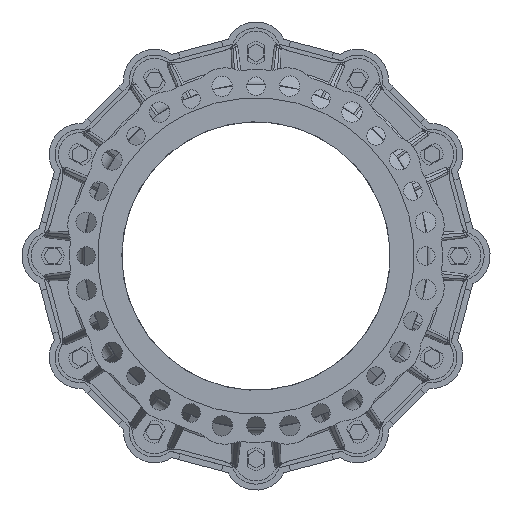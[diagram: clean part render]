
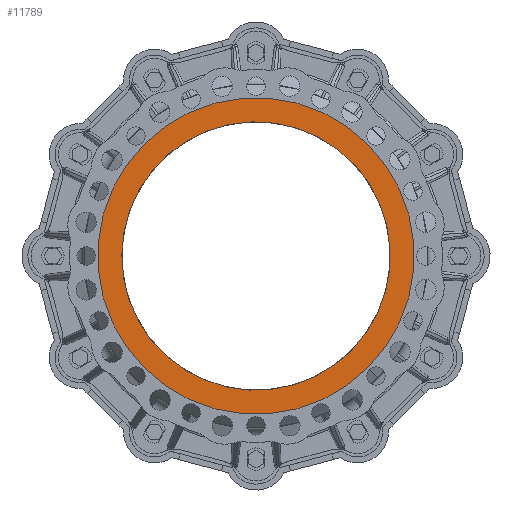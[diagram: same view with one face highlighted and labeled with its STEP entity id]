
A CAD part, front view. The second image highlights one B-rep face of the part: STEP entity #11789.
In plain terms, the highlighted planar face has unit normal (0, -1, 0).
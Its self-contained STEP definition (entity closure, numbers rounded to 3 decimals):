
#150=CARTESIAN_POINT('',(0.,-126.5,0.));
#151=DIRECTION('',(0.,1.,0.));
#152=DIRECTION('',(0.717,0.,-0.698));
#153=AXIS2_PLACEMENT_3D('',#150,#151,#152);
#169=CARTESIAN_POINT('',(0.,-126.5,0.));
#170=DIRECTION('',(0.,1.,0.));
#171=DIRECTION('',(0.962,0.,-0.272));
#172=AXIS2_PLACEMENT_3D('',#169,#170,#171);
#174=CARTESIAN_POINT('',(0.,-126.5,0.));
#175=DIRECTION('',(0.,-1.,0.));
#176=DIRECTION('',(0.707,0.,-0.707));
#177=AXIS2_PLACEMENT_3D('',#174,#175,#176);
#184=CARTESIAN_POINT('',(0.,-126.5,0.));
#185=DIRECTION('',(0.,-1.,0.));
#186=DIRECTION('',(0.966,0.,-0.259));
#187=AXIS2_PLACEMENT_3D('',#184,#185,#186);
#10509=CARTESIAN_POINT('',(169.706,-126.5,-169.706));
#10511=VERTEX_POINT('',#10509);
#10513=CARTESIAN_POINT('',(231.822,-126.5,-62.117));
#10515=VERTEX_POINT('',#10513);
#11260=CARTESIAN_POINT('',(195.84,-126.5,-55.308));
#11261=CARTESIAN_POINT('',(145.818,-126.5,-141.948));
#11262=VERTEX_POINT('',#11260);
#11263=VERTEX_POINT('',#11261);
#11774=CARTESIAN_POINT('',(0.,-126.5,0.));
#11775=DIRECTION('',(0.,-1.,0.));
#11776=DIRECTION('',(0.,0.,-1.));
#11777=AXIS2_PLACEMENT_3D('',#11774,#11775,#11776);
#11778=PLANE('',#11777);
#11780=ORIENTED_EDGE('',*,*,#11779,.F.);
#11782=ORIENTED_EDGE('',*,*,#11781,.F.);
#11783=EDGE_LOOP('',(#11780,#11782));
#11784=FACE_OUTER_BOUND('',#11783,.F.);
#11785=ORIENTED_EDGE('',*,*,#11748,.F.);
#11786=ORIENTED_EDGE('',*,*,#11765,.F.);
#11787=EDGE_LOOP('',(#11785,#11786));
#11788=FACE_BOUND('',#11787,.F.);
#11789=ADVANCED_FACE('',(#11784,#11788),#11778,.T.);
#154=CIRCLE('',#153,203.5);
#173=CIRCLE('',#172,203.5);
#178=CIRCLE('',#177,240.);
#188=CIRCLE('',#187,240.);
#11748=EDGE_CURVE('',#11263,#11262,#154,.T.);
#11765=EDGE_CURVE('',#11262,#11263,#173,.T.);
#11779=EDGE_CURVE('',#10515,#10511,#188,.T.);
#11781=EDGE_CURVE('',#10511,#10515,#178,.T.);
